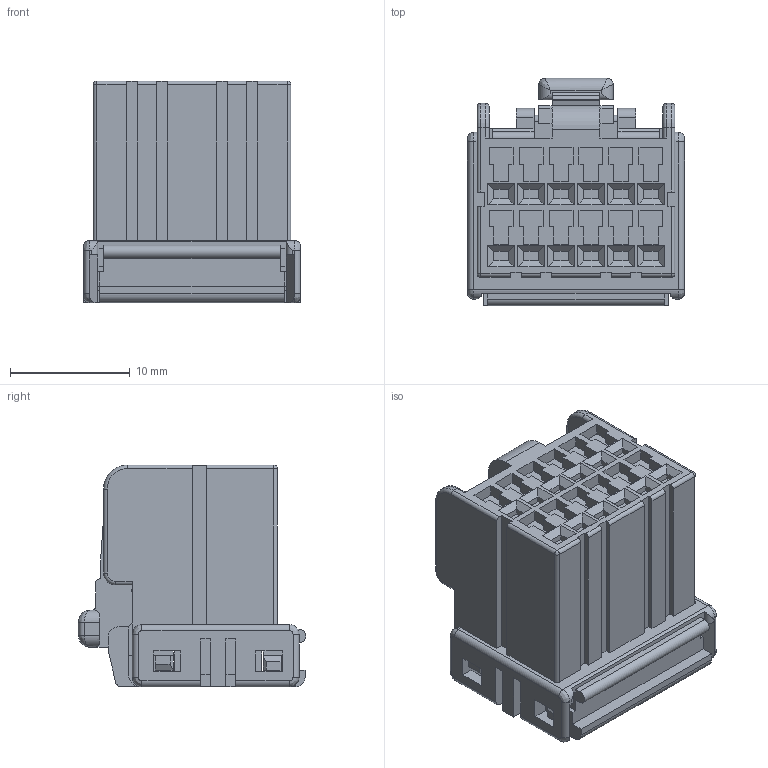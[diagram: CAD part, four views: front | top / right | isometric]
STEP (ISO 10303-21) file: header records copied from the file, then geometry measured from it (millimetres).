
FILE_DESCRIPTION((''),'2;1');
FILE_NAME('C-174045-2','2015-05-07T',('workeradm'),('Tyco Electronics Ltd.'),'PRO/ENGINEER BY PARAMETRIC TECHNOLOGY CORPORATION, 2014090','PRO/ENGINEER BY PARAMETRIC TECHNOLOGY CORPORATION, 2014090','');
FILE_SCHEMA(('AUTOMOTIVE_DESIGN { 1 0 10303 214 1 1 1 1 }'));
Length unit declared in the file: millimetre
Products named in the file (1): C-174045-2
Bounding box: 18.1 x 18.95 x 18.5 mm (x, y, z)
Volume: 3861 mm3; surface area: 2660.8 mm2
Topology: 1 solids, 1 shells, 540 faces, 1430 edges, 914 vertices
Faces by surface type: plane 447, cylinder 71, bspline 12, torus 8, sphere 2
Entity records: 16902 total; most frequent: CARTESIAN_POINT 3330, ORIENTED_EDGE 2860, DIRECTION 2608, EDGE_CURVE 1430, VECTOR 1272, LINE 1272, VERTEX_POINT 914, AXIS2_PLACEMENT_3D 668
